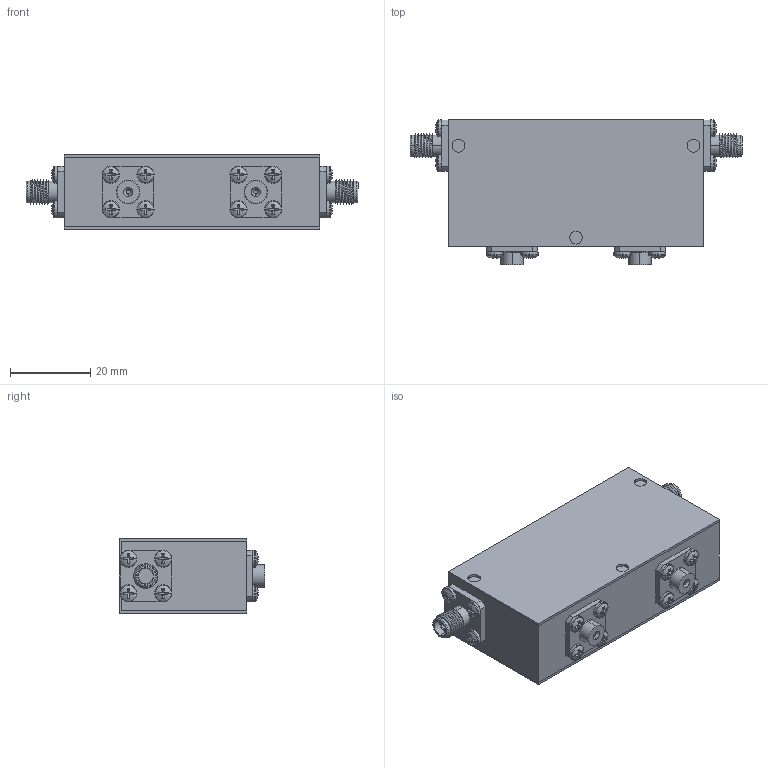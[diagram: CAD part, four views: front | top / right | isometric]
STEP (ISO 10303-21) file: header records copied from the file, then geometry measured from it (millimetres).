
FILE_DESCRIPTION (( 'STEP AP214' ), '1' );
FILE_NAME ('Package 13 Iso FF.step', '2021-12-01T20:57:39', ( '' ), ( '' ), 'SwSTEP 2.0', 'SolidWorks 2016', '' );
FILE_SCHEMA (( 'AUTOMOTIVE_DESIGN' ));
Length unit declared in the file: inch
Products named in the file (6): Package Size 13; Package 13; 030013-1A; Delta SMA-Female 0.500 flange Threaded; Package 13 Iso FF; pan cross head_ai_CR-PHMS 0.086-56x0.125x0.125-N
Assembly tree (22 placements, depth 2):
  Package 13 Iso FF
    Package 13
    pan cross head_ai_CR-PHMS 0.086-56x0.125x0.125-N  x16
    030013-1A  x2
    Delta SMA-Female 0.500 flange Threaded  x2
    Package Size 13
Bounding box: 82.55 x 36.2 x 18.54 mm (x, y, z)
Volume: 38840.3 mm3; surface area: 20977.3 mm2
Topology: 22 solids, 22 shells, 538 faces, 1222 edges, 754 vertices
Faces by surface type: plane 296, cylinder 156, torus 40, sphere 32, cone 8, bspline 6
Entity records: 4805 total; most frequent: CARTESIAN_POINT 1374, DIRECTION 727, ORIENTED_EDGE 594, EDGE_CURVE 297, AXIS2_PLACEMENT_3D 294, VERTEX_POINT 191, EDGE_LOOP 160, CIRCLE 150
